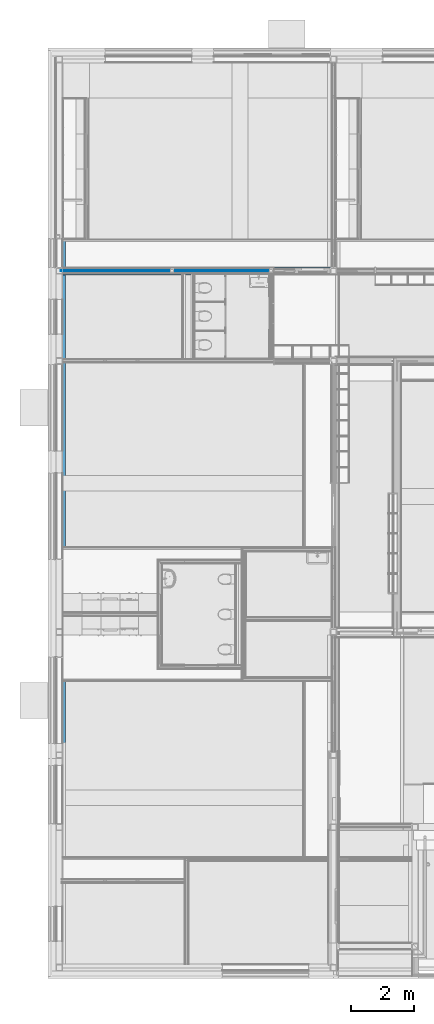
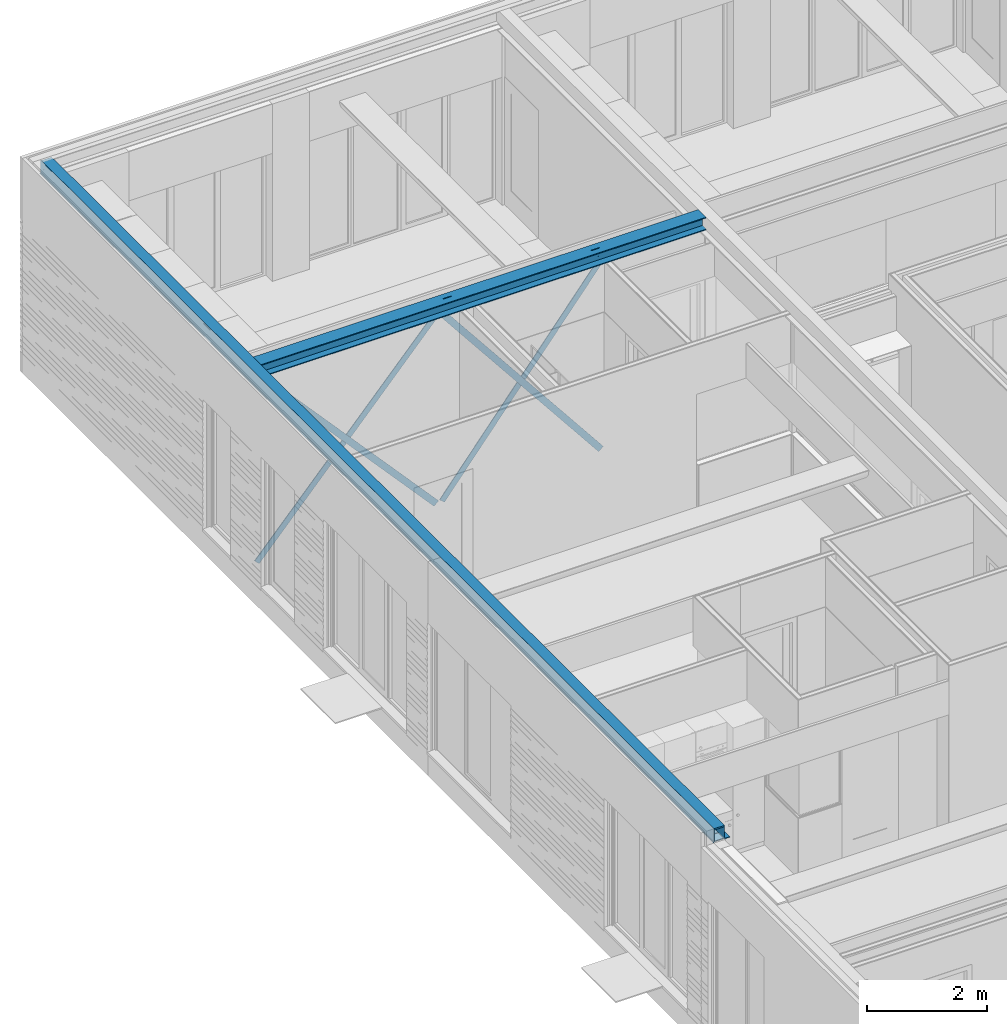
# One storey, part 12 of 165: 6 beams.
"""IFC2X3 building model written with IfcOpenShell, lengths in millimetres."""

from ifc_helpers import new_model, entity, si_unit, converted_unit, derived_unit, money_unit, direction, frame, origin_with_axes, place, context, subcontext, project, spatial, faceted_brep, material, type_object, element, save


model = new_model("IFC2X3")

# Units and contexts
model_context = context("Model", 3, precision=0.01, world=origin_with_axes(), true_north=direction((0.0, 1.0)))
body_context = subcontext(model_context, "Body", "Model", "MODEL_VIEW")
ifc_project = project(units=[si_unit("LENGTHUNIT", "METRE", prefix="MILLI"), si_unit("AREAUNIT", "SQUARE_METRE"), si_unit("VOLUMEUNIT", "CUBIC_METRE"), converted_unit("PLANEANGLEUNIT", "DEGREE", entity("IfcPlaneAngleMeasure", 0.0174532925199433), si_unit("PLANEANGLEUNIT", "RADIAN"), dimensions=[0, 0, 0, 0, 0, 0, 0]), money_unit("EUR"), converted_unit("TIMEUNIT", "Year", entity("IfcTimeMeasure", 31556926.0), si_unit("TIMEUNIT", "SECOND"), dimensions=[0, 0, 1, 0, 0, 0, 0]), si_unit("MASSUNIT", "GRAM", prefix="KILO"), si_unit("THERMODYNAMICTEMPERATUREUNIT", "DEGREE_CELSIUS"), si_unit("LUMINOUSINTENSITYUNIT", "LUMEN"), si_unit("ENERGYUNIT", "JOULE", prefix="MEGA"), derived_unit("THERMALCONDUCTANCEUNIT", [(si_unit("POWERUNIT", "WATT"), 1), (si_unit("LENGTHUNIT", "METRE"), -1), (si_unit("THERMODYNAMICTEMPERATUREUNIT", "KELVIN"), -1)]), derived_unit("SPECIFICHEATCAPACITYUNIT", [(si_unit("ENERGYUNIT", "JOULE"), 1), (si_unit("MASSUNIT", "GRAM", prefix="KILO"), -1), (si_unit("THERMODYNAMICTEMPERATUREUNIT", "KELVIN"), -1)]), derived_unit("MASSDENSITYUNIT", [(si_unit("MASSUNIT", "GRAM", prefix="KILO"), 1), (si_unit("VOLUMEUNIT", "CUBIC_METRE"), -1)])], contexts=[model_context])

# Site, building, storey
site_placement = place(None, origin_with_axes())
site = spatial("IfcSite", under=ifc_project, at=site_placement, Name="Site", CompositionType="ELEMENT")
building_placement = place(site_placement, origin_with_axes())
building = spatial("IfcBuilding", under=site, at=building_placement, Name="Naam gebouw", CompositionType="ELEMENT")
storey_placement = place(building_placement, origin_with_axes())
storey = spatial("IfcBuildingStorey", under=building, at=storey_placement, Name="Begane grond", CompositionType="ELEMENT", Elevation=0.0)

# Beams
ifc_material = material(Name="Metaal - Staal C")
beam_type_1 = type_object("IfcBeamType", Name="HEB260 260 x 260", PredefinedType="BEAM")
beam_1_placement = place(storey_placement, frame((201.0000004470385, 22324.97621406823, 3730.0), z_axis=(0.0, 0.0, 1.0), x_axis=(0.0, -1.0, 0.0)))
element("IfcBeam", 1, at=beam_1_placement, inside=storey, type_object=beam_type_1, material=ifc_material, Name="h METAAL_Regenwaterafvoer-x", ObjectType="BEAM", context=body_context, shape_type="Brep", body=[
    faceted_brep([(4.999999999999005, 0.0, -112.4999999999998), (4.999999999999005, 40.6059983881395, -112.4999999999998), (4.999999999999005, 43.56855373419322, -109.829812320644), (4.999999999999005, 45.97522682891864, -112.4999999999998), (4.999999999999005, 8548.01097105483, -112.4999999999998), (4.999999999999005, 8548.01097105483, 112.4999999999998), (4.999999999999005, 6581.288508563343, 112.4999999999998), (4.999999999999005, 6640.989462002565, 37.30938780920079), (4.999999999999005, 6547.01053710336, -37.30938780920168), (4.999999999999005, 6428.062665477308, 112.4999999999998), (4.999999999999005, 0.0, 112.4999999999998), (15.00000000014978, 45.97522682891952, -112.4999999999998), (15.00000000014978, 40.60599838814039, -112.4999999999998), (129.999999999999, 0.0, -112.4999999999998), (129.999999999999, 8548.01097105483, -112.4999999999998), (1.49213974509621e-10, 43.56855373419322, -109.829812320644), (15.00000000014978, 21.18986559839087, -129.9999999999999), (1.49213974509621e-10, 21.18986559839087, -129.9999999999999), (1.49213974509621e-10, 61.7481927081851, -129.9999999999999), (15.00000000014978, 61.7481927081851, -129.9999999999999), (129.999999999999, 8548.01097105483, -129.9999999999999), (-129.999999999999, 8548.01097105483, -129.9999999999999), (-129.999999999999, 8548.01097105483, -112.4999999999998), (-4.999999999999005, 8548.01097105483, -112.4999999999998), (-4.999999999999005, 8548.01097105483, 112.4999999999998), (-129.999999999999, 8548.01097105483, 112.4999999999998), (-129.999999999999, 8548.01097105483, 129.9999999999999), (129.999999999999, 8548.01097105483, 129.9999999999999), (129.999999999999, 8548.01097105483, 112.4999999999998), (129.999999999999, 0.0, 112.4999999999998), (15.00000000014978, 6428.062665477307, 112.4999999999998), (15.00000000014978, 6581.288508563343, 112.4999999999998), (15.00000000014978, 6567.393599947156, 129.9999999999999), (1.49213974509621e-10, 6567.393599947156, 129.9999999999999), (1.49213974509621e-10, 6640.989462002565, 37.30938780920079), (1.49213974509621e-10, 6547.01053710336, -37.30938780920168), (1.49213974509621e-10, 6414.167756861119, 129.9999999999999), (15.00000000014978, 6414.167756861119, 129.9999999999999), (-129.999999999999, 0.0, -129.9999999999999), (129.999999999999, 0.0, -129.9999999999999), (129.999999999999, 0.0, 129.9999999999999), (-129.999999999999, 0.0, 129.9999999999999), (-129.999999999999, 0.0, 112.4999999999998), (-4.999999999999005, 0.0, 112.4999999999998), (-4.999999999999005, 0.0, -112.4999999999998), (-129.999999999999, 0.0, -112.4999999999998), (0.0, 6533.194579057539, -129.9999999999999), (0.0, 6568.94245269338, -129.9999999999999), (-15.00000000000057, 6568.94245269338, -129.9999999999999), (-15.00000000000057, 6533.194579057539, -129.9999999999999), (15.00000000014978, 3613.805420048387, -129.9999999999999), (1.49213974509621e-10, 3613.805420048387, -129.9999999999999), (1.49213974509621e-10, 3578.057546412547, -129.9999999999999), (15.00000000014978, 3578.057546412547, -129.9999999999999), (-15.00000000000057, 3410.810133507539, -129.9999999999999), (-15.00000000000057, 3370.251806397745, -129.9999999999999), (0.0, 3370.251806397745, -129.9999999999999), (0.0, 3410.810133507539, -129.9999999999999), (-4.999999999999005, 3386.02477227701, -112.4999999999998), (-15.00000000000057, 3386.024772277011, -112.4999999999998), (-15.00000000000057, 3391.394000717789, -112.4999999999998), (-4.999999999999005, 3391.394000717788, -112.4999999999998), (-4.999999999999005, 3388.431445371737, -109.8298123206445), (-4.999999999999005, 3565.711490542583, 112.4999999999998), (-4.999999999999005, 3506.01053710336, 37.30938780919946), (-4.999999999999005, 3599.989462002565, -37.30938780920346), (-4.999999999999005, 3718.937333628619, 112.4999999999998), (-15.00000000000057, 3718.93733362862, 112.4999999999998), (-15.00000000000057, 3565.711490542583, 112.4999999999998), (-15.00000000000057, 3732.832242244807, 129.9999999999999), (0.0, 3732.832242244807, 129.9999999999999), (0.0, 3579.606399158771, 129.9999999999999), (-15.00000000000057, 3579.606399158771, 129.9999999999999), (0.0, 6547.105872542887, -112.5708555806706), (-15.00000000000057, 6547.105872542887, -112.5708555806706), (15.00000000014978, 3599.894126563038, -112.5708555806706), (1.49213974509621e-10, 3599.894126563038, -112.5708555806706), (0.0, 3388.431445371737, -109.8298123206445), (0.0, 3506.01053710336, 37.30938780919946), (0.0, 3599.989462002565, -37.30938780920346)], [[[0, 1, 2, 3, 4, 5, 6, 7, 8, 9, 10]], [[11, 12, 1, 0, 13, 14, 4, 3]], [[15, 2, 1, 12, 16, 17]], [[15, 18, 19, 11, 3, 2]], [[14, 20, 21, 22, 23, 24, 25, 26, 27, 28, 5, 4]], [[28, 29, 10, 9, 30, 31, 6, 5]], [[6, 31, 32, 33, 34, 7]], [[35, 8, 7, 34]], [[8, 35, 36, 37, 30, 9]], [[38, 39, 13, 0, 10, 29, 40, 41, 42, 43, 44, 45]], [[11, 19, 16, 12]], [[14, 13, 39, 20]], [[20, 39, 38, 21], [46, 47, 48, 49], [50, 51, 52, 53], [54, 55, 56, 57], [17, 16, 19, 18]], [[15, 17, 18]], [[21, 38, 45, 22]], [[45, 44, 58, 59, 60, 61, 23, 22]], [[23, 61, 62, 58, 44, 43, 63, 64, 65, 66, 24]], [[43, 42, 25, 24, 66, 67, 68, 63]], [[25, 42, 41, 26]], [[26, 41, 40, 27], [69, 70, 71, 72], [32, 37, 36, 33]], [[27, 40, 29, 28]], [[32, 31, 30, 37]], [[34, 33, 36, 35]], [[73, 47, 46]], [[48, 47, 73, 74]], [[74, 49, 48]], [[46, 49, 74, 73]], [[50, 75, 76, 51]], [[52, 51, 76]], [[52, 76, 75, 53]], [[50, 53, 75]], [[60, 59, 55, 54]], [[55, 59, 58, 62, 77, 56]], [[56, 77, 57]], [[61, 60, 54, 57, 77, 62]], [[72, 71, 78, 64, 63, 68]], [[78, 79, 65, 64]], [[70, 69, 67, 66, 65, 79]], [[68, 67, 69, 72]], [[79, 78, 71, 70]]]),
])
beam_type_2 = type_object("IfcBeamType", Name="28 THQ enkele flens 02 320 x 280", PredefinedType="BEAM")
beam_2_placement = place(storey_placement, frame((100.0000000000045, 29175.0, 3859.999999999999), z_axis=(0.0, 0.0, 1.0), x_axis=(-1.0, 0.0, 0.0)))
element("IfcBeam", 2, at=beam_2_placement, inside=storey, type_object=beam_type_2, material=ifc_material, Name="h METAAL_Regenwaterafvoer-x", ObjectType="BEAM", context=body_context, shape_type="Brep", body=[
    faceted_brep([(-89.99999999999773, 22385.0, -279.9999999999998), (90.00000000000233, 22385.0, -279.9999999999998), (90.0000000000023, 22205.0, -279.9999999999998), (-89.99999999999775, 22205.0, -279.9999999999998), (-89.99999999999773, 22385.0, -265.0000000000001), (90.00000000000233, 22385.0, -265.0000000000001), (90.0000000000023, 22205.0, -265.0000000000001), (-89.99999999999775, 22205.0, -265.0000000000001)], [[[0, 1, 2, 3]], [[0, 4, 5, 1]], [[1, 5, 6, 2]], [[2, 6, 7, 3]], [[3, 7, 4, 0]], [[6, 5, 4, 7]]]),
    faceted_brep([(-89.99999999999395, 9815.000188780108, -279.9999999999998), (90.00000000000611, 9815.000188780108, -279.9999999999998), (90.00000000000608, 9635.000188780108, -279.9999999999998), (-89.99999999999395, 9635.000188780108, -279.9999999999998), (-89.99999999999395, 9815.000188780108, -265.0000000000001), (90.00000000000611, 9815.000188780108, -265.0000000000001), (90.00000000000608, 9635.000188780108, -265.0000000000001), (-89.99999999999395, 9635.000188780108, -265.0000000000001)], [[[0, 1, 2, 3]], [[0, 4, 5, 1]], [[1, 5, 6, 2]], [[2, 6, 7, 3]], [[3, 7, 4, 0]], [[6, 5, 4, 7]]]),
    faceted_brep([(-89.99999999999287, 18454.99988944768, -279.9999999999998), (90.00000000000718, 18454.99988944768, -279.9999999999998), (90.00000000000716, 18274.99988944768, -279.9999999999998), (-89.9999999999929, 18274.99988944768, -279.9999999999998), (-89.99999999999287, 18454.99988944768, -265.0000000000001), (90.00000000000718, 18454.99988944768, -265.0000000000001), (90.00000000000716, 18274.99988944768, -265.0000000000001), (-89.9999999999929, 18274.99988944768, -265.0000000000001)], [[[0, 1, 2, 3]], [[0, 4, 5, 1]], [[1, 5, 6, 2]], [[2, 6, 7, 3]], [[3, 7, 4, 0]], [[6, 5, 4, 7]]]),
    faceted_brep([(-89.99999999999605, 6940.000152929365, -279.9999999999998), (90.00000000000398, 6940.000152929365, -279.9999999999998), (90.00000000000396, 6760.000152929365, -279.9999999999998), (-89.99999999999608, 6760.000152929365, -279.9999999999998), (-89.99999999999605, 6940.000152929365, -265.0000000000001), (90.00000000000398, 6940.000152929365, -265.0000000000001), (90.00000000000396, 6760.000152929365, -265.0000000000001), (-89.99999999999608, 6760.000152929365, -265.0000000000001)], [[[0, 1, 2, 3]], [[0, 4, 5, 1]], [[1, 5, 6, 2]], [[2, 6, 7, 3]], [[3, 7, 4, 0]], [[6, 5, 4, 7]]]),
    faceted_brep([(-89.99999999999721, 190.0000000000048, -279.9999999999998), (90.00000000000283, 190.0000000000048, -279.9999999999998), (90.0000000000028, 10.00000000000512, -279.9999999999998), (-89.99999999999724, 10.00000000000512, -279.9999999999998), (-89.99999999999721, 190.0000000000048, -265.0000000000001), (90.00000000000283, 190.0000000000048, -265.0000000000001), (90.0000000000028, 10.00000000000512, -265.0000000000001), (-89.99999999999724, 10.00000000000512, -265.0000000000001)], [[[0, 1, 2, 3]], [[0, 4, 5, 1]], [[1, 5, 6, 2]], [[2, 6, 7, 3]], [[3, 7, 4, 0]], [[6, 5, 4, 7]]]),
    faceted_brep([(-204.0000044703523, 0.0, -279.9999999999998), (-99.99999999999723, 0.0, -279.9999999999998), (-99.99999999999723, 0.0, -260.0000000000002), (-100.9999999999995, 0.0, -259.9999999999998), (-100.9999999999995, 0.0, -265.0000000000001), (-204.0000044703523, 0.0, -265.0000000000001), (100.0000000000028, 200.0000000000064, -279.9999999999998), (-99.9999999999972, 200.0000000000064, -279.9999999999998), (-204.0000044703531, 22395.00000000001, -279.9999999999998), (-99.9999999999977, 22395.00000000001, -279.9999999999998), (-99.99999999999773, 22195.00000000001, -279.9999999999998), (100.0000000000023, 22195.00000000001, -279.9999999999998), (100.0000000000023, 22395.00000000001, -280.0000000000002), (116.0000000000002, 22395.00000000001, -280.0000000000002), (115.9999999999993, 418.7696388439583, -280.0000000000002), (115.0000000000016, 418.7696388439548, -279.9999999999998), (115.0000000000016, 209.3052034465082, -279.9999999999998), (115.9999999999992, 209.3052034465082, -280.0000000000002), (115.9999999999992, 0.0, -280.0000000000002), (100.0000000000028, 0.0, -280.0000000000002), (115.0000000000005, 5655.127538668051, -279.9999999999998), (100.0000000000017, 5655.127538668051, -279.9999999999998), (100.0000000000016, 5445.663103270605, -279.9999999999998), (115.0000000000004, 5445.663103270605, -279.9999999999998), (100.0000000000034, 5705.000152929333, -279.9999999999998), (100.0000000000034, 5825.00015292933, -279.9999999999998), (-19.99999999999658, 5825.00015292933, -279.9999999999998), (-19.9999999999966, 5705.000152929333, -279.9999999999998), (100.0000000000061, 9625.000188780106, -279.9999999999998), (100.0000000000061, 9825.000188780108, -279.9999999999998), (-99.99999999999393, 9825.000188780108, -279.9999999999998), (-99.99999999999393, 9625.000188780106, -279.9999999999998), (100.0000000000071, 18264.99988944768, -279.9999999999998), (100.0000000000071, 18464.99988944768, -279.9999999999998), (-99.99999999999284, 18464.99988944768, -279.9999999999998), (-99.99999999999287, 18264.99988944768, -279.9999999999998), (100.000000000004, 6950.000152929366, -279.9999999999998), (-99.99999999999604, 6950.000152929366, -279.9999999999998), (-99.99999999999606, 6865.023785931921, -280.0000000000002), (-180.7744398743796, 6865.023785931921, -279.9999999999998), (-180.7744398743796, 6850.02378593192, -279.9999999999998), (-99.99999999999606, 6850.02378593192, -279.9999999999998), (-99.99999999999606, 6750.000152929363, -279.9999999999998), (100.000000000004, 6750.000152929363, -279.9999999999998), (-99.9999999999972, 200.0000000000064, -260.0000000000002), (-99.99999999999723, 90.00000000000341, -260.0000000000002), (-100.9999999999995, 90.00000000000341, -259.9999999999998), (-100.9999999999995, 10.00000000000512, -246.0), (-100.9999999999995, 10.00000000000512, -13.99999999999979), (-100.9999999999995, 90.00000000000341, -13.99999999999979), (-100.9999999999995, 90.00000000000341, 0.0), (-101.0000000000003, 22395.00000000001, 0.0), (-101.0000000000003, 22395.00000000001, -265.0000000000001), (-100.9999999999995, 90.00000000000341, -246.0), (-204.0000044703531, 22395.00000000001, -265.0000000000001), (-116.6423995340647, 6865.023785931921, -264.9999999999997), (-116.6423995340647, 6850.02378593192, -264.9999999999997), (-167.2547548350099, 6850.02378593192, -264.9999999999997), (-167.2547548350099, 6865.023785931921, -264.9999999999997), (100.0000000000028, 200.0000000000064, -260.0000000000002), (95.00000000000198, 200.0000000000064, -260.0000000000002), (95.0000000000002, 200.0000000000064, -265.0000000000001), (-94.9999999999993, 200.0000000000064, -265.0000000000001), (-94.9999999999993, 200.0000000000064, -260.0000000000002), (-95.00000000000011, 22395.00000000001, -260.0000000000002), (-99.9999999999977, 22395.00000000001, -260.0000000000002), (100.9999999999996, 22395.00000000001, 0.0), (100.9999999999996, 22395.00000000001, -265.0000000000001), (116.0000000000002, 22395.00000000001, -265.0000000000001), (100.0000000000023, 22395.00000000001, -260.0000000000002), (95.00000000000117, 22395.00000000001, -260.0000000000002), (95.00000000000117, 22395.00000000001, -30.00000000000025), (-95.00000000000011, 22395.00000000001, -29.9999999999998), (-99.99999999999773, 22195.00000000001, -260.0000000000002), (100.0000000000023, 22195.00000000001, -260.0000000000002), (-94.9999999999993, 22195.00000000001, -260.0000000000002), (-95.00000000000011, 22195.00000000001, -265.0000000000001), (95.00000000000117, 22195.00000000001, -265.0000000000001), (95.00000000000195, 22195.00000000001, -260.0000000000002), (115.9999999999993, 397.3091556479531, -265.0000000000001), (115.0000000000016, 397.3091556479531, -265.0000000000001), (115.0000000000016, 187.84472025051, -265.0000000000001), (115.9999999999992, 187.8447202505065, -265.0000000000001), (115.9999999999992, 0.0, -265.0000000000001), (100.0000000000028, 0.0, 0.0), (101.0000000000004, 0.0, -265.0000000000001), (101.0000000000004, 0.0, 0.0), (100.0000000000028, 90.00000000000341, -246.0), (100.0000000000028, 90.00000000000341, -260.0000000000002), (100.0000000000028, 90.00000000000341, 0.0), (100.0000000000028, 90.00000000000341, -13.99999999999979), (100.0000000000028, 10.00000000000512, -13.99999999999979), (100.0000000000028, 10.00000000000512, -246.0), (115.0000000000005, 5676.588021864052, -265.0000000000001), (100.9999999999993, 5676.588021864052, -265.0000000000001), (100.9999999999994, 5799.373529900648, -179.1779519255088), (100.0000000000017, 5799.373529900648, -179.1779519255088), (100.0000000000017, 5730.626775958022, -80.82204807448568), (100.9999999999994, 5730.626775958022, -80.82204807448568), (100.9999999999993, 5467.123586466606, -265.0000000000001), (115.0000000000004, 5467.123586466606, -265.0000000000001), (100.0000000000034, 5825.00015292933, -260.0000000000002), (100.0000000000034, 5705.000152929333, -260.0000000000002), (95.00000000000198, 5825.00015292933, -260.0000000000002), (95.00000000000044, 5825.00015292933, -265.0000000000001), (-19.99999999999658, 5825.00015292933, -265.0000000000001), (-19.9999999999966, 5705.000152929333, -265.0000000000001), (95.00000000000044, 5705.000152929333, -265.0000000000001), (95.00000000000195, 5705.000152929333, -260.0000000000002), (100.0000000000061, 9825.000188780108, -260.0000000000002), (100.0000000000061, 9625.000188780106, -260.0000000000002), (-99.99999999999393, 9825.000188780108, -260.0000000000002), (95.00000000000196, 9825.000188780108, -260.0000000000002), (95.00000000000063, 9825.000188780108, -265.0000000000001), (-94.99999999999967, 9825.000188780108, -265.0000000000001), (-94.9999999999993, 9825.000188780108, -260.0000000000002), (-99.99999999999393, 9625.000188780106, -260.0000000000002), (-94.99999999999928, 9625.000188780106, -260.0000000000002), (-94.99999999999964, 9625.000188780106, -265.0000000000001), (95.0000000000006, 9625.000188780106, -265.0000000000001), (95.00000000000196, 9625.000188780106, -260.0000000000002), (100.0000000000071, 18464.99988944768, -260.0000000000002), (100.0000000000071, 18264.99988944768, -260.0000000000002), (-99.99999999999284, 18464.99988944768, -260.0000000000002), (95.00000000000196, 18464.99988944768, -260.0000000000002), (95.00000000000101, 18464.99988944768, -265.0000000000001), (-94.99999999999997, 18464.99988944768, -265.0000000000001), (-94.99999999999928, 18464.99988944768, -260.0000000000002), (-99.99999999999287, 18264.99988944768, -260.0000000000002), (-94.99999999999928, 18264.99988944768, -260.0000000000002), (-94.99999999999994, 18264.99988944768, -265.0000000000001), (95.000000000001, 18264.99988944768, -265.0000000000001), (95.00000000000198, 18264.99988944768, -260.0000000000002), (-99.99999999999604, 6950.000152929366, -260.0000000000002), (100.000000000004, 6950.000152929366, -260.0000000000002), (95.00000000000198, 6950.000152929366, -260.0000000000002), (95.0000000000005, 6950.000152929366, -265.0000000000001), (-94.99999999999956, 6950.000152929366, -265.0000000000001), (-94.99999999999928, 6950.000152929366, -260.0000000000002), (-99.99999999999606, 6750.000152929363, -260.0000000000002), (100.000000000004, 6750.000152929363, -260.0000000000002), (-94.9999999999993, 6750.000152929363, -260.0000000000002), (-94.99999999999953, 6750.000152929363, -265.0000000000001), (95.00000000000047, 6750.000152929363, -265.0000000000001), (95.00000000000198, 6750.000152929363, -260.0000000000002), (-94.9999999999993, 90.00000000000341, -260.0000000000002), (-94.9999999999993, 90.00000000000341, -246.0), (-94.9999999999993, 10.00000000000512, -246.0), (-94.9999999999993, 10.00000000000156, -29.9999999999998), (95.0000000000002, 10.00000000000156, -30.00000000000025), (95.00000000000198, 10.00000000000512, -246.0), (100.9999999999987, 180.6912258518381, 0.0), (100.000000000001, 180.6912258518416, 0.0), (100.000000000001, 390.1556612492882, 0.0), (100.9999999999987, 390.1556612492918, 0.0), (95.00000000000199, 90.00000000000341, -260.0000000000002), (95.00000000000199, 90.00000000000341, -246.0), (101.0000000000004, 133.8059661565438, -179.1779519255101), (101.0000000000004, 65.0592122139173, -80.82204807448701), (100.000000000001, 65.0592122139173, -80.82204807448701), (100.000000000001, 133.8059661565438, -179.1779519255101)], [[[0, 1, 2, 3, 4, 5]], [[6, 7, 1, 0, 8, 9, 10, 11, 12, 13, 14, 15, 16, 17, 18, 19], [20, 21, 22, 23], [24, 25, 26, 27], [28, 29, 30, 31], [32, 33, 34, 35], [36, 37, 38, 39, 40, 41, 42, 43]], [[44, 45, 2, 1, 7]], [[3, 2, 45, 46]], [[47, 48, 49, 50, 51, 52, 4, 3, 46, 53]], [[5, 4, 52, 54], [55, 56, 57, 58]], [[0, 5, 54, 8]], [[44, 7, 6, 59, 60, 61, 62, 63]], [[64, 65, 9, 8, 54, 52, 51, 66, 67, 68, 13, 12, 69, 70, 71, 72]], [[73, 10, 9, 65]], [[74, 11, 10, 73, 75, 76, 77, 78]], [[69, 12, 11, 74]], [[68, 79, 14, 13]], [[14, 79, 80, 15]], [[15, 80, 81, 16]], [[16, 81, 82, 17]], [[18, 17, 82, 83]], [[84, 19, 18, 83, 85, 86]], [[87, 88, 59, 6, 19, 84, 89, 90, 91, 92]], [[93, 94, 95, 96, 21, 20]], [[22, 21, 96, 97]], [[97, 98, 99, 100, 23, 22]], [[20, 23, 100, 93]], [[101, 25, 24, 102]], [[103, 104, 105, 26, 25, 101]], [[26, 105, 106, 27]], [[27, 106, 107, 108, 102, 24]], [[109, 29, 28, 110]], [[111, 30, 29, 109, 112, 113, 114, 115]], [[116, 31, 30, 111]], [[110, 28, 31, 116, 117, 118, 119, 120]], [[121, 33, 32, 122]], [[123, 34, 33, 121, 124, 125, 126, 127]], [[128, 35, 34, 123]], [[122, 32, 35, 128, 129, 130, 131, 132]], [[133, 37, 36, 134, 135, 136, 137, 138]], [[139, 42, 41, 38, 37, 133]], [[39, 38, 55, 58]], [[40, 39, 58, 57]], [[41, 40, 57, 56]], [[140, 43, 42, 139, 141, 142, 143, 144]], [[134, 36, 43, 140]], [[63, 145, 45, 44]], [[46, 45, 145, 146, 53]], [[92, 91, 48, 47, 147, 148, 149, 150]], [[91, 90, 49, 48]], [[49, 90, 89, 50]], [[51, 50, 89, 84, 86, 151, 152, 153, 154, 66]], [[146, 147, 47, 53]], [[55, 38, 41, 56]], [[59, 88, 155, 60]], [[61, 60, 155, 156, 150, 149, 71, 70, 78, 77, 125, 124, 132, 131, 113, 112, 120, 119, 136, 135, 144, 143, 104, 103, 108, 107]], [[142, 62, 61, 107, 106, 105, 104, 143]], [[145, 63, 62, 142, 141, 138, 137, 118, 117, 115, 114, 130, 129, 127, 126, 76, 75, 64, 72, 148, 147, 146]], [[73, 65, 64, 75]], [[86, 85, 99, 98, 95, 94, 67, 66, 154, 157, 158, 151]], [[79, 68, 67, 94, 93, 100, 99, 85, 83, 82, 81, 80]], [[74, 78, 70, 69]], [[72, 71, 149, 148]], [[76, 126, 125, 77]], [[156, 155, 88, 87]], [[87, 92, 150, 156]], [[95, 98, 97, 96]], [[102, 108, 103, 101]], [[110, 120, 112, 109]], [[113, 131, 130, 114]], [[111, 115, 117, 116]], [[118, 137, 136, 119]], [[122, 132, 124, 121]], [[123, 127, 129, 128]], [[140, 144, 135, 134]], [[133, 138, 141, 139]], [[158, 159, 152, 151]], [[159, 160, 153, 152]], [[160, 157, 154, 153]], [[160, 159, 158, 157]]]),
])
beam_type_3 = type_object("IfcBeamType", Name="Metaal - Staal C 15 x 120", PredefinedType="BEAM")
beam_3_placement = place(storey_placement, frame((3634.000000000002, 22309.97621406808, -230.0), z_axis=(0.0, 0.0, 1.0), x_axis=(0.0, 1.0, 0.0)))
element("IfcBeam", 3, at=beam_3_placement, inside=storey, type_object=beam_type_3, material=ifc_material, Name="h METAAL_Regenwaterafvoer-x", ObjectType="BEAM", context=body_context, shape_type="Brep", body=[
    faceted_brep([(0.0, 44.56855418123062, -40.17018767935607), (0.0, 3478.568554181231, 3769.829812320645), (15.00000000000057, 3478.568554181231, 3769.829812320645), (15.00000000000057, 44.56855418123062, -40.17018767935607), (0.0, -44.56855418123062, 40.17018767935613), (0.0, 3389.43144581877, 3850.170187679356), (15.00000000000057, 3389.43144581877, 3850.170187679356), (15.00000000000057, -44.56855418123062, 40.17018767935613)], [[[0, 1, 2, 3]], [[4, 5, 1, 0]], [[2, 1, 5, 6]], [[3, 2, 6, 7]], [[4, 0, 3, 7]], [[7, 6, 5, 4]]]),
])
beam_4_placement = place(storey_placement, frame((200.0000000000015, 22339.97621406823, -230.0), z_axis=(0.0, 0.0, 1.0), x_axis=(0.0, -1.0, 0.0)))
element("IfcBeam", 4, at=beam_4_placement, inside=storey, type_object=beam_type_3, material=ifc_material, Name="h METAAL_Regenwaterafvoer-x", ObjectType="BEAM", context=body_context, shape_type="Brep", body=[
    faceted_brep([(0.0, 44.56855418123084, -40.17018767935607), (0.0, 3478.568554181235, 3769.829812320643), (15.00000000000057, 3478.568554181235, 3769.829812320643), (15.00000000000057, 44.56855418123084, -40.17018767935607), (0.0, -44.56855418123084, 40.17018767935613), (0.0, 3389.431445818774, 3850.170187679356), (15.00000000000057, 3389.431445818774, 3850.170187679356), (15.00000000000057, -44.56855418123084, 40.17018767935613)], [[[0, 1, 2, 3]], [[4, 5, 1, 0]], [[2, 1, 5, 6]], [[3, 2, 6, 7]], [[4, 0, 3, 7]], [[7, 6, 5, 4]]]),
])
beam_5_placement = place(storey_placement, frame((3754.000000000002, 22339.97621406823, -230.0), z_axis=(0.0, 0.0, 1.0), x_axis=(0.0, -1.0, 0.0)))
element("IfcBeam", 5, at=beam_5_placement, inside=storey, type_object=beam_type_3, material=ifc_material, Name="h METAAL_Regenwaterafvoer-x", ObjectType="BEAM", context=body_context, shape_type="Brep", body=[
    faceted_brep([(0.0, 46.89412701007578, -37.42914441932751), (0.0, 3087.894127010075, 3772.570855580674), (15.00000000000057, 3087.894127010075, 3772.570855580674), (15.00000000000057, 46.89412701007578, -37.42914441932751), (0.0, -46.89412701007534, 37.42914441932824), (0.0, 2994.105872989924, 3847.42914441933), (15.00000000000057, 2994.105872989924, 3847.42914441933), (15.00000000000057, -46.89412701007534, 37.42914441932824)], [[[0, 1, 2, 3]], [[4, 5, 1, 0]], [[2, 1, 5, 6]], [[3, 2, 6, 7]], [[4, 0, 3, 7]], [[7, 6, 5, 4]]]),
])
beam_6_placement = place(storey_placement, frame((6795.000000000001, 22309.97621406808, -230.0), z_axis=(0.0, 0.0, 1.0), x_axis=(0.0, 1.0, 0.0)))
element("IfcBeam", 6, at=beam_6_placement, inside=storey, type_object=beam_type_3, material=ifc_material, Name="h METAAL_Regenwaterafvoer-x", ObjectType="BEAM", context=body_context, shape_type="Brep", body=[
    faceted_brep([(0.0, 46.89412701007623, -37.42914441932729), (0.0, 3087.894127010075, 3772.570855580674), (15.00000000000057, 3087.894127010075, 3772.570855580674), (15.00000000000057, 46.89412701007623, -37.42914441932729), (0.0, -46.89412701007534, 37.42914441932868), (0.0, 2994.105872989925, 3847.42914441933), (15.00000000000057, 2994.105872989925, 3847.42914441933), (15.00000000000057, -46.89412701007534, 37.42914441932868)], [[[0, 1, 2, 3]], [[4, 5, 1, 0]], [[2, 1, 5, 6]], [[3, 2, 6, 7]], [[4, 0, 3, 7]], [[7, 6, 5, 4]]]),
])

save(model, "model.ifc")
